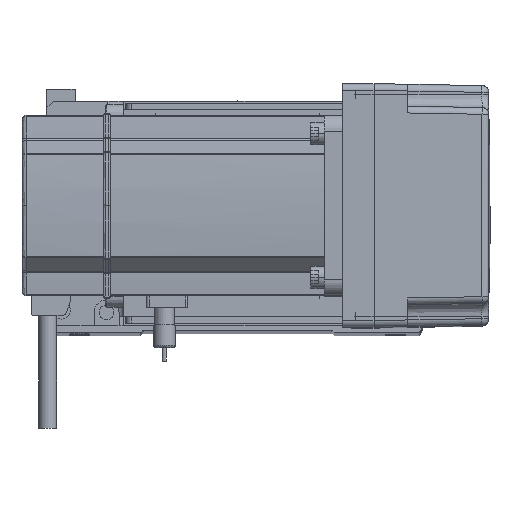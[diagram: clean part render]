
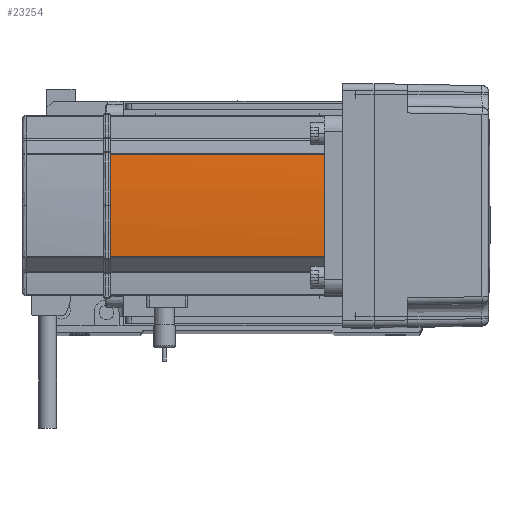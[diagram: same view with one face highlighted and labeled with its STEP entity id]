
A CAD part, top view. The second image highlights one B-rep face of the part: STEP entity #23254.
In plain terms, the highlighted cylindrical face has radius 270 mm (diameter 540 mm), a partial arc.
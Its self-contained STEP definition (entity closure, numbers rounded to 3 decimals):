
#417 = DIRECTION ( 'NONE',  ( 0., 0., -1. ) ) ;
#5568 = FACE_OUTER_BOUND ( 'NONE', #10183, .T. ) ;
#6401 = DIRECTION ( 'NONE',  ( 0., 0., -1. ) ) ;
#6546 = VERTEX_POINT ( 'NONE', #21666 ) ;
#10183 = EDGE_LOOP ( 'NONE', ( #50474, #43368, #57028, #41894, #17768 ) ) ;
#10893 = EDGE_CURVE ( 'NONE', #11337, #26571, #35896, .T. ) ;
#11132 = CARTESIAN_POINT ( 'NONE',  ( -40., 0., 134. ) ) ;
#11337 = VERTEX_POINT ( 'NONE', #24207 ) ;
#14024 = DIRECTION ( 'NONE',  ( 0., 0., 1. ) ) ;
#14951 = CARTESIAN_POINT ( 'NONE',  ( 230., 0., 134. ) ) ;
#15889 = CARTESIAN_POINT ( 'NONE',  ( 230., 0., 39. ) ) ;
#16687 = DIRECTION ( 'NONE',  ( 0., 0., -1. ) ) ;
#17768 = ORIENTED_EDGE ( 'NONE', *, *, #10893, .T. ) ;
#18663 = VERTEX_POINT ( 'NONE', #11132 ) ;
#19248 = AXIS2_PLACEMENT_3D ( 'NONE', #15889, #6401, #28632 ) ;
#20181 = CIRCLE ( 'NONE', #33699, 270. ) ;
#21125 = CARTESIAN_POINT ( 'NONE',  ( -39.042, 22.724, 39. ) ) ;
#21666 = CARTESIAN_POINT ( 'NONE',  ( -39.042, 22.724, 134. ) ) ;
#22463 = EDGE_CURVE ( 'NONE', #18663, #6546, #20181, .T. ) ;
#23254 = ADVANCED_FACE ( 'NONE', ( #5568 ), #49158, .T. ) ;
#24207 = CARTESIAN_POINT ( 'NONE',  ( -39.042, -22.724, 39. ) ) ;
#25671 = VERTEX_POINT ( 'NONE', #21125 ) ;
#26259 = EDGE_CURVE ( 'NONE', #6546, #25671, #50035, .T. ) ;
#26571 = VERTEX_POINT ( 'NONE', #33159 ) ;
#28265 = DIRECTION ( 'NONE',  ( 1., 0., 0. ) ) ;
#28632 = DIRECTION ( 'NONE',  ( 1., 0., 0. ) ) ;
#30171 = CARTESIAN_POINT ( 'NONE',  ( 230., 0., 134. ) ) ;
#32259 = AXIS2_PLACEMENT_3D ( 'NONE', #32486, #50281, #28265 ) ;
#32486 = CARTESIAN_POINT ( 'NONE',  ( 230., 0., 0. ) ) ;
#33159 = CARTESIAN_POINT ( 'NONE',  ( -39.042, -22.724, 134. ) ) ;
#33699 = AXIS2_PLACEMENT_3D ( 'NONE', #14951, #37438, #53787 ) ;
#35896 = LINE ( 'NONE', #49367, #46321 ) ;
#37438 = DIRECTION ( 'NONE',  ( 0., 0., -1. ) ) ;
#37785 = EDGE_CURVE ( 'NONE', #26571, #18663, #47329, .T. ) ;
#39597 = CARTESIAN_POINT ( 'NONE',  ( -39.042, 22.724, 0. ) ) ;
#41001 = AXIS2_PLACEMENT_3D ( 'NONE', #30171, #16687, #47541 ) ;
#41032 = VECTOR ( 'NONE', #417, 1000. ) ;
#41894 = ORIENTED_EDGE ( 'NONE', *, *, #47751, .F. ) ;
#43368 = ORIENTED_EDGE ( 'NONE', *, *, #22463, .T. ) ;
#46321 = VECTOR ( 'NONE', #14024, 1000. ) ;
#47329 = CIRCLE ( 'NONE', #41001, 270. ) ;
#47541 = DIRECTION ( 'NONE',  ( 1., 0., 0. ) ) ;
#47751 = EDGE_CURVE ( 'NONE', #11337, #25671, #52130, .T. ) ;
#49158 = CYLINDRICAL_SURFACE ( 'NONE', #32259, 270. ) ;
#49367 = CARTESIAN_POINT ( 'NONE',  ( -39.042, -22.724, 0. ) ) ;
#50035 = LINE ( 'NONE', #39597, #41032 ) ;
#50281 = DIRECTION ( 'NONE',  ( 0., 0., 1. ) ) ;
#50474 = ORIENTED_EDGE ( 'NONE', *, *, #37785, .T. ) ;
#52130 = CIRCLE ( 'NONE', #19248, 270. ) ;
#53787 = DIRECTION ( 'NONE',  ( 1., 0., 0. ) ) ;
#57028 = ORIENTED_EDGE ( 'NONE', *, *, #26259, .T. ) ;
